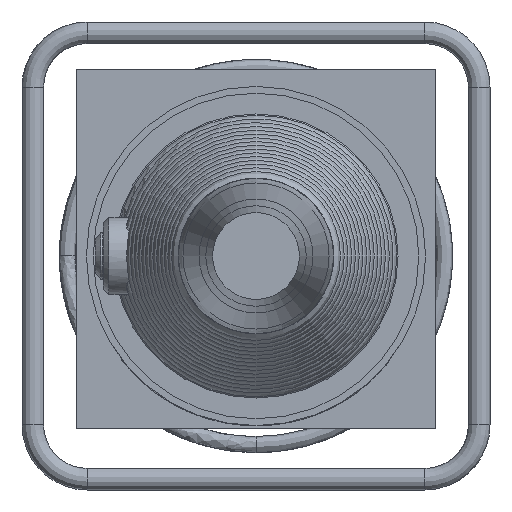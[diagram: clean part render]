
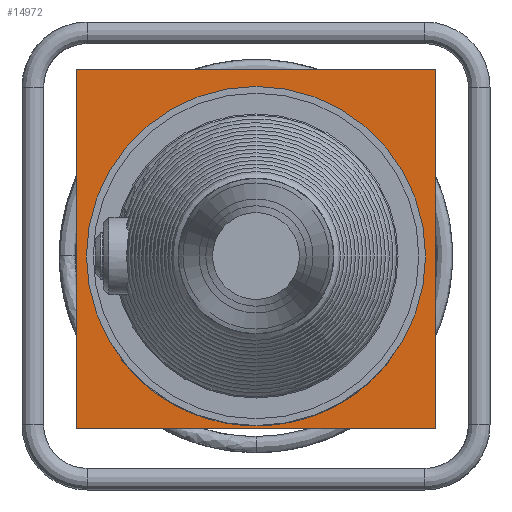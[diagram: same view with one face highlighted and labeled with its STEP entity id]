
A CAD part, left-side view. The second image highlights one B-rep face of the part: STEP entity #14972.
In plain terms, the highlighted planar face has unit normal (-1, 0, 0).
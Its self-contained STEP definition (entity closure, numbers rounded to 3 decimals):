
#1502=PLANE('',#15859);
#2370=LINE('',#38722,#3248);
#2374=LINE('',#38729,#3252);
#2377=LINE('',#38734,#3255);
#2380=LINE('',#38738,#3258);
#3248=VECTOR('',#18475,265.);
#3252=VECTOR('',#18481,265.);
#3255=VECTOR('',#18486,265.);
#3258=VECTOR('',#18491,265.);
#3532=FACE_BOUND('',#5450,.T.);
#4409=FACE_OUTER_BOUND('',#5449,.T.);
#5449=EDGE_LOOP('',(#13705,#13706,#13707,#13708));
#5450=EDGE_LOOP('',(#13709));
#5807=CIRCLE('',#15599,125.);
#7257=VERTEX_POINT('',#34918);
#7381=VERTEX_POINT('',#38720);
#7382=VERTEX_POINT('',#38721);
#7384=VERTEX_POINT('',#38728);
#7385=VERTEX_POINT('',#38733);
#9341=EDGE_CURVE('',#7257,#7257,#5807,.T.);
#9496=EDGE_CURVE('',#7381,#7382,#2370,.T.);
#9500=EDGE_CURVE('',#7382,#7384,#2374,.T.);
#9503=EDGE_CURVE('',#7384,#7385,#2377,.T.);
#9506=EDGE_CURVE('',#7385,#7381,#2380,.T.);
#13705=ORIENTED_EDGE('',*,*,#9506,.T.);
#13706=ORIENTED_EDGE('',*,*,#9496,.T.);
#13707=ORIENTED_EDGE('',*,*,#9500,.T.);
#13708=ORIENTED_EDGE('',*,*,#9503,.T.);
#13709=ORIENTED_EDGE('',*,*,#9341,.T.);
#14972=ADVANCED_FACE('',(#4409,#3532),#1502,.T.);
#15599=AXIS2_PLACEMENT_3D('',#34919,#17955,#17956);
#15859=AXIS2_PLACEMENT_3D('',#38740,#18493,#18494);
#17955=DIRECTION('center_axis',(1.,0.,0.));
#17956=DIRECTION('ref_axis',(0.,-1.,0.));
#18475=DIRECTION('',(0.,0.,-1.));
#18481=DIRECTION('',(0.,-1.,0.));
#18486=DIRECTION('',(0.,0.,1.));
#18491=DIRECTION('',(0.,1.,0.));
#18493=DIRECTION('center_axis',(-1.,0.,0.));
#18494=DIRECTION('ref_axis',(0.,0.,-1.));
#34918=CARTESIAN_POINT('',(-112.151,-125.,0.));
#34919=CARTESIAN_POINT('Origin',(-112.151,0.,
0.));
#38720=CARTESIAN_POINT('',(-112.151,132.5,137.753));
#38721=CARTESIAN_POINT('',(-112.151,132.5,-127.247));
#38722=CARTESIAN_POINT('',(-112.151,132.5,137.753));
#38728=CARTESIAN_POINT('',(-112.151,-132.5,-127.247));
#38729=CARTESIAN_POINT('',(-112.151,132.5,-127.247));
#38733=CARTESIAN_POINT('',(-112.151,-132.5,137.753));
#38734=CARTESIAN_POINT('',(-112.151,-132.5,-127.247));
#38738=CARTESIAN_POINT('',(-112.151,-132.5,137.753));
#38740=CARTESIAN_POINT('Origin',(-112.151,0.,
5.253));
